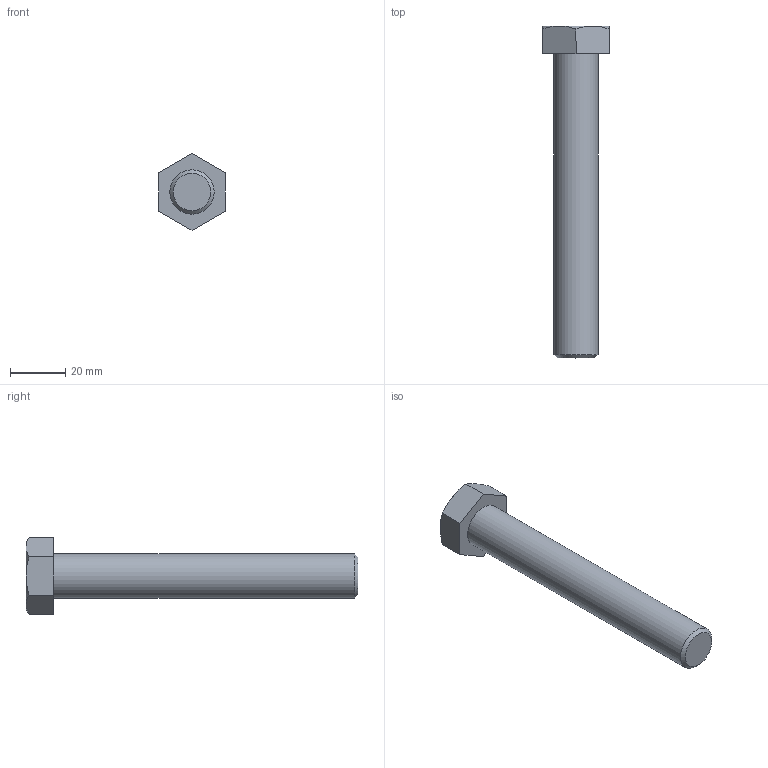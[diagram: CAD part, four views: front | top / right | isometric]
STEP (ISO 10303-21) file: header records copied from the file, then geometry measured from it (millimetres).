
FILE_DESCRIPTION(/* description */ (''),/* implementation_level */ '2;1');
FILE_NAME(/* name */ 'C:\Users\unitec\Documents\Inventor\各種小物\JIS\JIS B 1180 六角ボルト 等級C\hbc16\M16x110.stp',/* time_stamp */ '2015-02-13T14:52:14+09:00',/* author */ ('unitec'),/* organization */ (''),/* preprocessor_version */ 'ST-DEVELOPER v15.2',/* originating_system */ 'Autodesk Inventor 2014',/* authorisation */ '');
FILE_SCHEMA (('AUTOMOTIVE_DESIGN { 1 0 10303 214 3 1 1 }'));
Length unit declared in the file: millimetre
Products named in the file (1): M16x110
Bounding box: 24 x 120 x 27.71 mm (x, y, z)
Volume: 27054 mm3; surface area: 7296.7 mm2
Topology: 1 solids, 1 shells, 17 faces, 35 edges, 21 vertices
Faces by surface type: plane 9, cone 7, cylinder 1
Full cylindrical faces by diameter (mm): 16 x1
Entity records: 441 total; most frequent: CARTESIAN_POINT 96, ORIENTED_EDGE 66, DIRECTION 66, EDGE_CURVE 33, AXIS2_PLACEMENT_3D 27, VERTEX_POINT 21, EDGE_LOOP 20, ADVANCED_FACE 17
